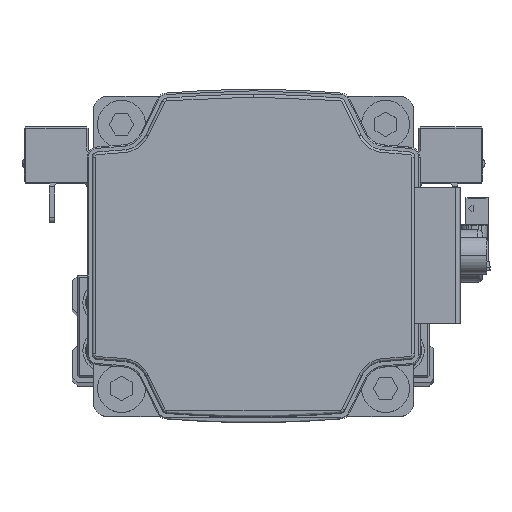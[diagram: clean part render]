
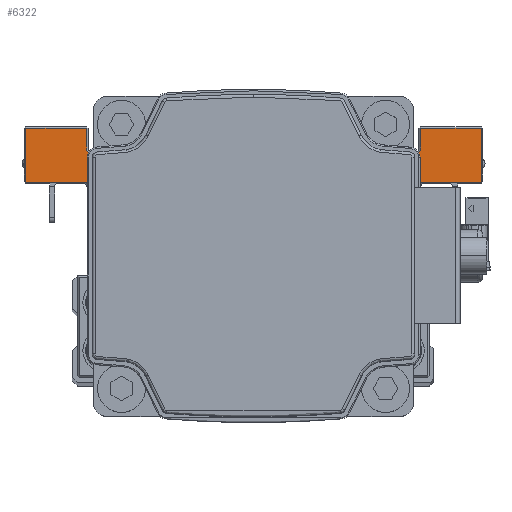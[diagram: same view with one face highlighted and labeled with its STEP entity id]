
A CAD part, top view. The second image highlights one B-rep face of the part: STEP entity #6322.
In plain terms, the highlighted planar face has unit normal (0, 0, 1) as drawn and (1, 0, 0) by its records, which use the part's own axes.
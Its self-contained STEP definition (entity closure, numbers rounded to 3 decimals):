
#150 = CARTESIAN_POINT ( 'NONE',  ( 25.5, -7.5, -15. ) ) ;
#204 = CARTESIAN_POINT ( 'NONE',  ( 25.5, 7.5, -15. ) ) ;
#213 = VERTEX_POINT ( 'NONE', #150 ) ;
#516 = ORIENTED_EDGE ( 'NONE', *, *, #22523, .T. ) ;
#604 = ORIENTED_EDGE ( 'NONE', *, *, #32248, .T. ) ;
#1023 = VERTEX_POINT ( 'NONE', #24001 ) ;
#1028 = AXIS2_PLACEMENT_3D ( 'NONE', #22595, #34848, #7293 ) ;
#1806 = VERTEX_POINT ( 'NONE', #14818 ) ;
#1959 = VECTOR ( 'NONE', #34655, 1000. ) ;
#1978 = ORIENTED_EDGE ( 'NONE', *, *, #22772, .T. ) ;
#2575 = CARTESIAN_POINT ( 'NONE',  ( 25.5, 14., 31.3 ) ) ;
#3035 = EDGE_CURVE ( 'NONE', #22799, #213, #14079, .T. ) ;
#3244 = EDGE_CURVE ( 'NONE', #25128, #31190, #25500, .T. ) ;
#3715 = CARTESIAN_POINT ( 'NONE',  ( 25.5, -7.5, -15. ) ) ;
#3919 = DIRECTION ( 'NONE',  ( -1., 0., 0. ) ) ;
#4159 = VERTEX_POINT ( 'NONE', #20819 ) ;
#4166 = ORIENTED_EDGE ( 'NONE', *, *, #24440, .T. ) ;
#4789 = CARTESIAN_POINT ( 'NONE',  ( 25.5, 14., -31.3 ) ) ;
#4813 = LINE ( 'NONE', #17077, #23086 ) ;
#5138 = CARTESIAN_POINT ( 'NONE',  ( 25.5, 7.5, 31.3 ) ) ;
#5297 = CARTESIAN_POINT ( 'NONE',  ( 25.5, 17.7, -42.7 ) ) ;
#5363 = DIRECTION ( 'NONE',  ( 0., 0., 1. ) ) ;
#5548 = VERTEX_POINT ( 'NONE', #30725 ) ;
#6030 = LINE ( 'NONE', #18313, #25623 ) ;
#6322 = ADVANCED_FACE ( 'NONE', ( #15491 ), #27756, .F. ) ;
#6607 = DIRECTION ( 'NONE',  ( -1., 0., 0. ) ) ;
#7293 = DIRECTION ( 'NONE',  ( 0., 0., 1. ) ) ;
#7329 = VECTOR ( 'NONE', #10583, 1000. ) ;
#7774 = EDGE_CURVE ( 'NONE', #1806, #4159, #10113, .T. ) ;
#7972 = ORIENTED_EDGE ( 'NONE', *, *, #3035, .F. ) ;
#8147 = AXIS2_PLACEMENT_3D ( 'NONE', #31473, #3919, #16183 ) ;
#8684 = DIRECTION ( 'NONE',  ( 0., 1., 0. ) ) ;
#8812 = EDGE_CURVE ( 'NONE', #16101, #1806, #32697, .T. ) ;
#8894 = CARTESIAN_POINT ( 'NONE',  ( 25.5, 7.5, 17. ) ) ;
#9108 = EDGE_CURVE ( 'NONE', #32758, #16101, #18367, .T. ) ;
#9451 = CARTESIAN_POINT ( 'NONE',  ( 25.5, 17.7, -15. ) ) ;
#9823 = DIRECTION ( 'NONE',  ( -1., 0., 0. ) ) ;
#10113 = LINE ( 'NONE', #22399, #1959 ) ;
#10558 = ORIENTED_EDGE ( 'NONE', *, *, #14589, .T. ) ;
#10583 = DIRECTION ( 'NONE',  ( 0., -1., 0. ) ) ;
#11231 = DIRECTION ( 'NONE',  ( 0., -1., 0. ) ) ;
#11380 = CARTESIAN_POINT ( 'NONE',  ( 25.5, 7.5, 43. ) ) ;
#12468 = DIRECTION ( 'NONE',  ( -1., 0., 0. ) ) ;
#13774 = VECTOR ( 'NONE', #23676, 1000. ) ;
#14079 = LINE ( 'NONE', #26337, #22926 ) ;
#14460 = CARTESIAN_POINT ( 'NONE',  ( 25.5, 5.5, -15. ) ) ;
#14589 = EDGE_CURVE ( 'NONE', #33088, #18221, #38924, .T. ) ;
#14818 = CARTESIAN_POINT ( 'NONE',  ( 25.5, 17.7, 31.3 ) ) ;
#14852 = EDGE_CURVE ( 'NONE', #26557, #213, #31264, .T. ) ;
#14964 = CARTESIAN_POINT ( 'NONE',  ( 25.5, 17.7, -31.3 ) ) ;
#15491 = FACE_OUTER_BOUND ( 'NONE', #15750, .T. ) ;
#15750 = EDGE_LOOP ( 'NONE', ( #516, #4166, #27961, #19850, #20686, #29059, #27099, #33349, #33329, #1978, #10558, #604, #36573, #22623, #7972, #34787 ) ) ;
#15985 = DIRECTION ( 'NONE',  ( 0., 0., -1. ) ) ;
#16101 = VERTEX_POINT ( 'NONE', #2575 ) ;
#16183 = DIRECTION ( 'NONE',  ( 0., 0., 1. ) ) ;
#16542 = CARTESIAN_POINT ( 'NONE',  ( 25.5, 7.5, 42.7 ) ) ;
#17077 = CARTESIAN_POINT ( 'NONE',  ( 25.5, 7.5, -31.3 ) ) ;
#17231 = VERTEX_POINT ( 'NONE', #19669 ) ;
#17310 = EDGE_CURVE ( 'NONE', #31190, #32758, #20665, .T. ) ;
#17402 = DIRECTION ( 'NONE',  ( 0., 1., 0. ) ) ;
#17709 = VECTOR ( 'NONE', #17402, 1000. ) ;
#18221 = VERTEX_POINT ( 'NONE', #8894 ) ;
#18313 = CARTESIAN_POINT ( 'NONE',  ( 25.5, 7.5, 43. ) ) ;
#18367 = CIRCLE ( 'NONE', #1028, 1.3 ) ;
#18849 = VECTOR ( 'NONE', #8684, 1000. ) ;
#18877 = DIRECTION ( 'NONE',  ( 0., 0., 1. ) ) ;
#19669 = CARTESIAN_POINT ( 'NONE',  ( 25.5, 7.5, -17. ) ) ;
#19850 = ORIENTED_EDGE ( 'NONE', *, *, #22727, .T. ) ;
#20665 = LINE ( 'NONE', #32926, #26405 ) ;
#20686 = ORIENTED_EDGE ( 'NONE', *, *, #3244, .T. ) ;
#20819 = CARTESIAN_POINT ( 'NONE',  ( 25.5, 17.7, 42.7 ) ) ;
#20845 = AXIS2_PLACEMENT_3D ( 'NONE', #37386, #9823, #22109 ) ;
#21144 = VECTOR ( 'NONE', #11231, 1000. ) ;
#21657 = CARTESIAN_POINT ( 'NONE',  ( 25.5, -7.5, 15. ) ) ;
#21734 = DIRECTION ( 'NONE',  ( 0., 0., 1. ) ) ;
#21987 = AXIS2_PLACEMENT_3D ( 'NONE', #34166, #6607, #18877 ) ;
#22109 = DIRECTION ( 'NONE',  ( 0., 0., 1. ) ) ;
#22399 = CARTESIAN_POINT ( 'NONE',  ( 25.5, 17.7, -15. ) ) ;
#22523 = EDGE_CURVE ( 'NONE', #17231, #5548, #6030, .T. ) ;
#22595 = CARTESIAN_POINT ( 'NONE',  ( 25.5, 14., 30. ) ) ;
#22623 = ORIENTED_EDGE ( 'NONE', *, *, #14852, .T. ) ;
#22727 = EDGE_CURVE ( 'NONE', #36858, #25128, #4813, .T. ) ;
#22772 = EDGE_CURVE ( 'NONE', #4159, #33088, #26521, .T. ) ;
#22799 = VERTEX_POINT ( 'NONE', #14460 ) ;
#22926 = VECTOR ( 'NONE', #38581, 1000. ) ;
#23086 = VECTOR ( 'NONE', #29353, 1000. ) ;
#23676 = DIRECTION ( 'NONE',  ( 0., 0., -1. ) ) ;
#23984 = LINE ( 'NONE', #36219, #18849 ) ;
#24001 = CARTESIAN_POINT ( 'NONE',  ( 25.5, 5.5, 15. ) ) ;
#24440 = EDGE_CURVE ( 'NONE', #5548, #32823, #23984, .T. ) ;
#24750 = DIRECTION ( 'NONE',  ( 0., 0., 1. ) ) ;
#25128 = VERTEX_POINT ( 'NONE', #4789 ) ;
#25500 = CIRCLE ( 'NONE', #8147, 1.3 ) ;
#25623 = VECTOR ( 'NONE', #30583, 1000. ) ;
#25875 = LINE ( 'NONE', #38119, #7329 ) ;
#26034 = CARTESIAN_POINT ( 'NONE',  ( 25.5, 12.7, 30. ) ) ;
#26182 = CARTESIAN_POINT ( 'NONE',  ( 25.5, 12.7, -30. ) ) ;
#26337 = CARTESIAN_POINT ( 'NONE',  ( 25.5, 7.5, -15. ) ) ;
#26405 = VECTOR ( 'NONE', #5363, 1000. ) ;
#26521 = LINE ( 'NONE', #38772, #21144 ) ;
#26557 = VERTEX_POINT ( 'NONE', #21657 ) ;
#26689 = EDGE_CURVE ( 'NONE', #1023, #26557, #25875, .T. ) ;
#27099 = ORIENTED_EDGE ( 'NONE', *, *, #9108, .T. ) ;
#27756 = PLANE ( 'NONE',  #28173 ) ;
#27960 = VECTOR ( 'NONE', #21734, 1000. ) ;
#27961 = ORIENTED_EDGE ( 'NONE', *, *, #34675, .T. ) ;
#28173 = AXIS2_PLACEMENT_3D ( 'NONE', #204, #12468, #24750 ) ;
#29059 = ORIENTED_EDGE ( 'NONE', *, *, #17310, .T. ) ;
#29353 = DIRECTION ( 'NONE',  ( 0., -1., 0. ) ) ;
#30245 = EDGE_CURVE ( 'NONE', #22799, #17231, #39328, .T. ) ;
#30583 = DIRECTION ( 'NONE',  ( 0., 0., -1. ) ) ;
#30725 = CARTESIAN_POINT ( 'NONE',  ( 25.5, 7.5, -42.7 ) ) ;
#31190 = VERTEX_POINT ( 'NONE', #26182 ) ;
#31264 = LINE ( 'NONE', #3715, #38818 ) ;
#31473 = CARTESIAN_POINT ( 'NONE',  ( 25.5, 14., -30. ) ) ;
#32248 = EDGE_CURVE ( 'NONE', #18221, #1023, #38176, .T. ) ;
#32697 = LINE ( 'NONE', #5138, #17709 ) ;
#32758 = VERTEX_POINT ( 'NONE', #26034 ) ;
#32823 = VERTEX_POINT ( 'NONE', #5297 ) ;
#32926 = CARTESIAN_POINT ( 'NONE',  ( 25.5, 12.7, 30. ) ) ;
#33088 = VERTEX_POINT ( 'NONE', #16542 ) ;
#33329 = ORIENTED_EDGE ( 'NONE', *, *, #7774, .T. ) ;
#33349 = ORIENTED_EDGE ( 'NONE', *, *, #8812, .T. ) ;
#34166 = CARTESIAN_POINT ( 'NONE',  ( 25.5, 5.5, -17. ) ) ;
#34655 = DIRECTION ( 'NONE',  ( 0., 0., 1. ) ) ;
#34675 = EDGE_CURVE ( 'NONE', #32823, #36858, #37005, .T. ) ;
#34787 = ORIENTED_EDGE ( 'NONE', *, *, #30245, .T. ) ;
#34848 = DIRECTION ( 'NONE',  ( -1., 0., 0. ) ) ;
#36219 = CARTESIAN_POINT ( 'NONE',  ( 25.5, 7.5, -42.7 ) ) ;
#36573 = ORIENTED_EDGE ( 'NONE', *, *, #26689, .T. ) ;
#36858 = VERTEX_POINT ( 'NONE', #14964 ) ;
#37005 = LINE ( 'NONE', #9451, #27960 ) ;
#37386 = CARTESIAN_POINT ( 'NONE',  ( 25.5, 5.5, 17. ) ) ;
#38119 = CARTESIAN_POINT ( 'NONE',  ( 25.5, 7.5, 15. ) ) ;
#38176 = CIRCLE ( 'NONE', #20845, 2. ) ;
#38581 = DIRECTION ( 'NONE',  ( 0., -1., 0. ) ) ;
#38772 = CARTESIAN_POINT ( 'NONE',  ( 25.5, 7.5, 42.7 ) ) ;
#38818 = VECTOR ( 'NONE', #15985, 1000. ) ;
#38924 = LINE ( 'NONE', #11380, #13774 ) ;
#39328 = CIRCLE ( 'NONE', #21987, 2. ) ;
